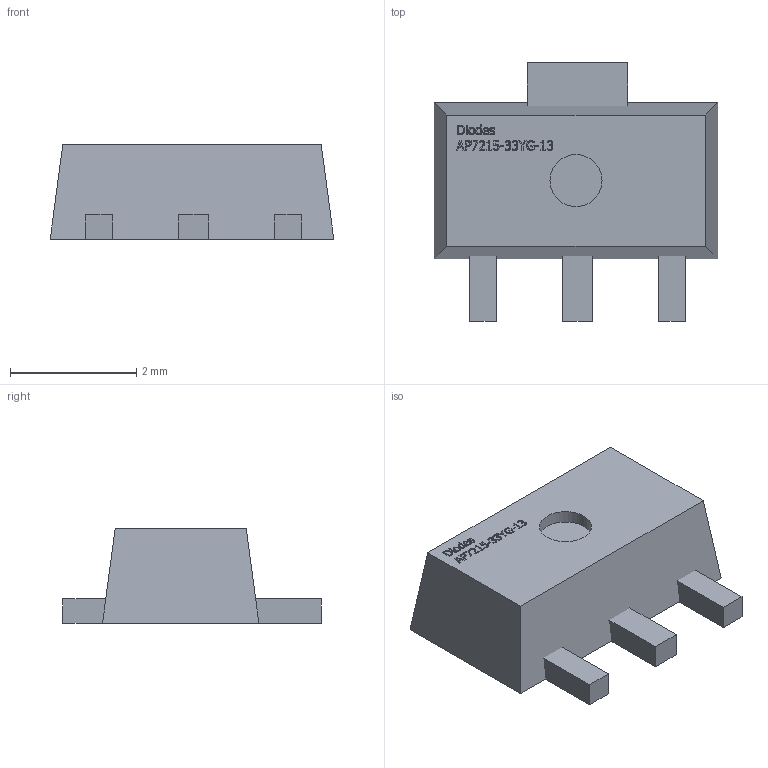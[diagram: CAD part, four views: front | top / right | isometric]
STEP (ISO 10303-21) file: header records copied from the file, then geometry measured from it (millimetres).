
FILE_DESCRIPTION( ( '' ), ' ' );
FILE_NAME( '/vol/tmp/translate-6634591587107708813/5afaad7c29854d0debee8356.step', '2018-05-15T09:50:53', ( '' ), ( '' ), ' ', ' ', ' ' );
FILE_SCHEMA( ( 'AUTOMOTIVE_DESIGN { 1 0 10303 214 1 1 1 1 }' ) );
Length unit declared in the file: metre
Products named in the file (4): Open CASCADE STEP translator 6.8 2; Open CASCADE STEP translator 6.8 1
Bounding box: 4.5 x 4.09 x 1.5 mm (x, y, z)
Volume: 17 mm3; surface area: 62.8 mm2
Topology: 4 solids, 4 shells, 355 faces, 955 edges, 636 vertices
Faces by surface type: plane 193, cylinder 97, extrusion 62, bspline 3
Full cylindrical faces by diameter (mm): 0.826 x1
Entity records: 19438 total; most frequent: CARTESIAN_POINT 3152, ORIENTED_EDGE 1908, DIRECTION 1561, STYLED_ITEM 1309, PRESENTATION_STYLE_ASSIGNMENT 1309, COLOUR_RGB 1309, EDGE_CURVE 954, CURVE_STYLE 954
